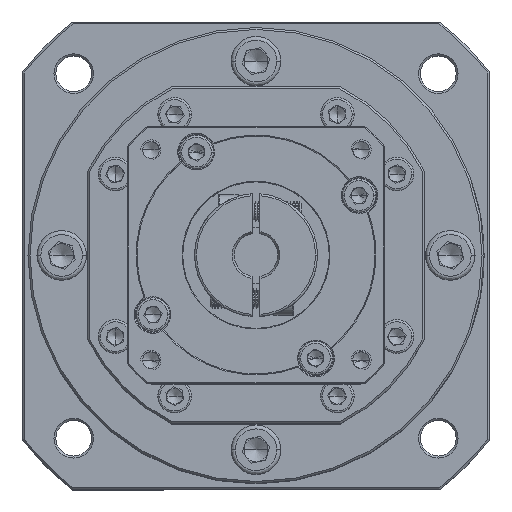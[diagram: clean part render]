
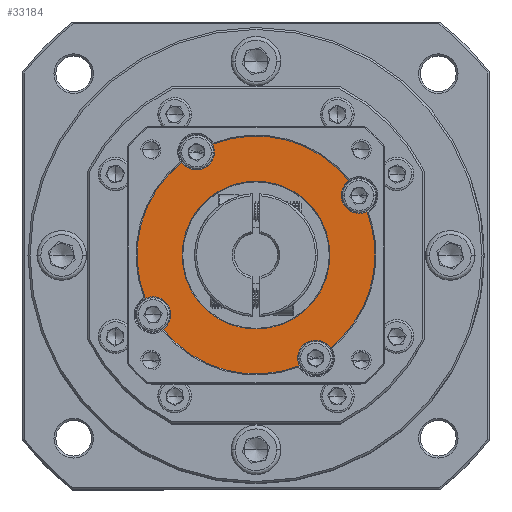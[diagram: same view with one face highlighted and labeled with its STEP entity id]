
A CAD part, top view. The second image highlights one B-rep face of the part: STEP entity #33184.
In plain terms, the highlighted planar face has unit normal (0, 0, 1).
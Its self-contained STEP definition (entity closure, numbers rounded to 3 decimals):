
#1172 = VERTEX_POINT ( 'NONE', #81468 ) ;
#2087 = ORIENTED_EDGE ( 'NONE', *, *, #72130, .F. ) ;
#3598 = CIRCLE ( 'NONE', #79431, 4.5 ) ;
#5773 = ORIENTED_EDGE ( 'NONE', *, *, #118830, .T. ) ;
#7400 = DIRECTION ( 'NONE',  ( 0., 0., 1. ) ) ;
#8260 = DIRECTION ( 'NONE',  ( 1., 0., 0. ) ) ;
#8325 = CARTESIAN_POINT ( 'NONE',  ( -59.469, 29.842, -1.259 ) ) ;
#9303 = ORIENTED_EDGE ( 'NONE', *, *, #83032, .T. ) ;
#9337 = ORIENTED_EDGE ( 'NONE', *, *, #85117, .F. ) ;
#9885 = CARTESIAN_POINT ( 'NONE',  ( -59.469, 29.842, -1.259 ) ) ;
#10411 = VERTEX_POINT ( 'NONE', #98422 ) ;
#10741 = CIRCLE ( 'NONE', #30857, 18.644 ) ;
#10841 = VERTEX_POINT ( 'NONE', #113673 ) ;
#11094 = ORIENTED_EDGE ( 'NONE', *, *, #118774, .T. ) ;
#11498 = AXIS2_PLACEMENT_3D ( 'NONE', #9885, #74324, #19161 ) ;
#12379 = CARTESIAN_POINT ( 'NONE',  ( -59.469, 29.842, -1.259 ) ) ;
#13375 = CARTESIAN_POINT ( 'NONE',  ( -69.969, 55.822, -1.259 ) ) ;
#13578 = CARTESIAN_POINT ( 'NONE',  ( -85.45, 14.842, -1.259 ) ) ;
#15859 = DIRECTION ( 'NONE',  ( 0., 0., -1. ) ) ;
#16010 = DIRECTION ( 'NONE',  ( 0., 0., -1. ) ) ;
#17592 = DIRECTION ( 'NONE',  ( 1., 0., 0. ) ) ;
#17933 = EDGE_CURVE ( 'NONE', #1172, #87557, #3598, .T. ) ;
#18870 = CARTESIAN_POINT ( 'NONE',  ( -33.488, 44.842, -1.259 ) ) ;
#19161 = DIRECTION ( 'NONE',  ( 1., 0., 0. ) ) ;
#19490 = CARTESIAN_POINT ( 'NONE',  ( -74.469, 55.822, -1.259 ) ) ;
#21247 = PLANE ( 'NONE',  #58656 ) ;
#21641 = DIRECTION ( 'NONE',  ( 1., 0., 0. ) ) ;
#22793 = CARTESIAN_POINT ( 'NONE',  ( -59.469, 29.842, -1.259 ) ) ;
#22818 = DIRECTION ( 'NONE',  ( 1., 0., 0. ) ) ;
#25646 = DIRECTION ( 'NONE',  ( 0., 0., 1. ) ) ;
#26406 = EDGE_CURVE ( 'NONE', #32602, #61419, #51579, .T. ) ;
#26939 = CIRCLE ( 'NONE', #94353, 4.5 ) ;
#27996 = CARTESIAN_POINT ( 'NONE',  ( -78.186, 53.286, -1.259 ) ) ;
#28080 = DIRECTION ( 'NONE',  ( 1., 0., 0. ) ) ;
#28417 = VERTEX_POINT ( 'NONE', #102638 ) ;
#28702 = DIRECTION ( 'NONE',  ( 1., 0., 0. ) ) ;
#29115 = CARTESIAN_POINT ( 'NONE',  ( -31.537, 40.787, -1.259 ) ) ;
#29221 = AXIS2_PLACEMENT_3D ( 'NONE', #71197, #16010, #80430 ) ;
#30700 = CARTESIAN_POINT ( 'NONE',  ( -87.401, 18.896, -1.259 ) ) ;
#30857 = AXIS2_PLACEMENT_3D ( 'NONE', #71061, #15859, #80290 ) ;
#31862 = ORIENTED_EDGE ( 'NONE', *, *, #57729, .F. ) ;
#32029 = DIRECTION ( 'NONE',  ( 1., 0., 0. ) ) ;
#32602 = VERTEX_POINT ( 'NONE', #38673 ) ;
#33184 = ADVANCED_FACE ( 'NONE', ( #94816, #116431 ), #21247, .T. ) ;
#33908 = CIRCLE ( 'NONE', #78853, 4.5 ) ;
#34471 = CIRCLE ( 'NONE', #90992, 30. ) ;
#34974 = CIRCLE ( 'NONE', #76063, 4.5 ) ;
#35077 = CARTESIAN_POINT ( 'NONE',  ( -74.469, 55.822, -1.259 ) ) ;
#35443 = CARTESIAN_POINT ( 'NONE',  ( -78.113, 29.842, -1.259 ) ) ;
#36735 = EDGE_CURVE ( 'NONE', #10841, #48654, #54122, .T. ) ;
#36974 = VERTEX_POINT ( 'NONE', #30700 ) ;
#37043 = CIRCLE ( 'NONE', #45266, 4.5 ) ;
#38219 = ORIENTED_EDGE ( 'NONE', *, *, #26406, .T. ) ;
#38673 = CARTESIAN_POINT ( 'NONE',  ( -82.914, 11.124, -1.259 ) ) ;
#39559 = DIRECTION ( 'NONE',  ( 0., 0., 1. ) ) ;
#43275 = CIRCLE ( 'NONE', #11498, 30. ) ;
#44075 = ORIENTED_EDGE ( 'NONE', *, *, #94236, .T. ) ;
#44209 = CARTESIAN_POINT ( 'NONE',  ( -85.45, 14.842, -1.259 ) ) ;
#44376 = DIRECTION ( 'NONE',  ( 1., 0., 0. ) ) ;
#45266 = AXIS2_PLACEMENT_3D ( 'NONE', #49157, #113597, #58405 ) ;
#46041 = CIRCLE ( 'NONE', #29221, 18.644 ) ;
#47882 = CARTESIAN_POINT ( 'NONE',  ( -48.524, 1.909, -1.259 ) ) ;
#48654 = VERTEX_POINT ( 'NONE', #72158 ) ;
#49157 = CARTESIAN_POINT ( 'NONE',  ( -44.469, 3.861, -1.259 ) ) ;
#50209 = CARTESIAN_POINT ( 'NONE',  ( -70.414, 57.774, -1.259 ) ) ;
#51579 = CIRCLE ( 'NONE', #65135, 30. ) ;
#53421 = EDGE_LOOP ( 'NONE', ( #2087, #38219, #99867, #65580, #72181, #9303, #72220, #9337, #5773, #80302, #31862, #44075, #67814 ) ) ;
#53425 = DIRECTION ( 'NONE',  ( 1., 0., 0. ) ) ;
#54122 = CIRCLE ( 'NONE', #85573, 30. ) ;
#55279 = AXIS2_PLACEMENT_3D ( 'NONE', #44209, #108578, #53425 ) ;
#57177 = VERTEX_POINT ( 'NONE', #27996 ) ;
#57729 = EDGE_CURVE ( 'NONE', #57177, #114691, #26939, .T. ) ;
#58330 = CIRCLE ( 'NONE', #69348, 30. ) ;
#58405 = DIRECTION ( 'NONE',  ( 1., 0., 0. ) ) ;
#58656 = AXIS2_PLACEMENT_3D ( 'NONE', #12379, #76808, #21641 ) ;
#61419 = VERTEX_POINT ( 'NONE', #47882 ) ;
#61623 = EDGE_CURVE ( 'NONE', #93233, #28417, #10741, .T. ) ;
#62519 = CARTESIAN_POINT ( 'NONE',  ( -33.488, 44.842, -1.259 ) ) ;
#63409 = DIRECTION ( 'NONE',  ( 0., 0., 1. ) ) ;
#65135 = AXIS2_PLACEMENT_3D ( 'NONE', #80872, #25646, #90123 ) ;
#65580 = ORIENTED_EDGE ( 'NONE', *, *, #115938, .F. ) ;
#67814 = ORIENTED_EDGE ( 'NONE', *, *, #93797, .F. ) ;
#69348 = AXIS2_PLACEMENT_3D ( 'NONE', #22793, #87252, #32029 ) ;
#71061 = CARTESIAN_POINT ( 'NONE',  ( -59.469, 29.842, -1.259 ) ) ;
#71197 = CARTESIAN_POINT ( 'NONE',  ( -59.469, 29.842, -1.259 ) ) ;
#71836 = DIRECTION ( 'NONE',  ( 1., 0., 0. ) ) ;
#72130 = EDGE_CURVE ( 'NONE', #32602, #98693, #34974, .T. ) ;
#72158 = CARTESIAN_POINT ( 'NONE',  ( -29.469, 29.842, -1.259 ) ) ;
#72181 = ORIENTED_EDGE ( 'NONE', *, *, #36735, .T. ) ;
#72220 = ORIENTED_EDGE ( 'NONE', *, *, #17933, .F. ) ;
#72772 = DIRECTION ( 'NONE',  ( 0., 0., 1. ) ) ;
#73692 = VERTEX_POINT ( 'NONE', #50209 ) ;
#74324 = DIRECTION ( 'NONE',  ( 0., 0., 1. ) ) ;
#76063 = AXIS2_PLACEMENT_3D ( 'NONE', #13578, #78023, #22818 ) ;
#76808 = DIRECTION ( 'NONE',  ( 0., 0., 1. ) ) ;
#78023 = DIRECTION ( 'NONE',  ( 0., 0., 1. ) ) ;
#78853 = AXIS2_PLACEMENT_3D ( 'NONE', #62519, #7400, #71836 ) ;
#79431 = AXIS2_PLACEMENT_3D ( 'NONE', #18870, #83299, #28080 ) ;
#80290 = DIRECTION ( 'NONE',  ( 1., 0., 0. ) ) ;
#80302 = ORIENTED_EDGE ( 'NONE', *, *, #92242, .F. ) ;
#80430 = DIRECTION ( 'NONE',  ( 1., 0., 0. ) ) ;
#80872 = CARTESIAN_POINT ( 'NONE',  ( -59.469, 29.842, -1.259 ) ) ;
#81468 = CARTESIAN_POINT ( 'NONE',  ( -37.988, 44.842, -1.259 ) ) ;
#83032 = EDGE_CURVE ( 'NONE', #48654, #87557, #43275, .T. ) ;
#83299 = DIRECTION ( 'NONE',  ( 0., 0., 1. ) ) ;
#83930 = DIRECTION ( 'NONE',  ( 0., 0., 1. ) ) ;
#85117 = EDGE_CURVE ( 'NONE', #10411, #1172, #33908, .T. ) ;
#85573 = AXIS2_PLACEMENT_3D ( 'NONE', #118555, #63409, #8260 ) ;
#87252 = DIRECTION ( 'NONE',  ( 0., 0., 1. ) ) ;
#87557 = VERTEX_POINT ( 'NONE', #29115 ) ;
#88438 = EDGE_CURVE ( 'NONE', #116173, #61419, #37043, .T. ) ;
#90123 = DIRECTION ( 'NONE',  ( 1., 0., 0. ) ) ;
#90716 = CIRCLE ( 'NONE', #97513, 4.5 ) ;
#90992 = AXIS2_PLACEMENT_3D ( 'NONE', #8325, #72772, #17592 ) ;
#92242 = EDGE_CURVE ( 'NONE', #114691, #73692, #115229, .T. ) ;
#93233 = VERTEX_POINT ( 'NONE', #35443 ) ;
#93797 = EDGE_CURVE ( 'NONE', #98693, #36974, #103113, .T. ) ;
#94236 = EDGE_CURVE ( 'NONE', #57177, #36974, #58330, .T. ) ;
#94353 = AXIS2_PLACEMENT_3D ( 'NONE', #19490, #83930, #28702 ) ;
#94716 = CARTESIAN_POINT ( 'NONE',  ( -44.469, 3.861, -1.259 ) ) ;
#94816 = FACE_BOUND ( 'NONE', #100876, .T. ) ;
#97513 = AXIS2_PLACEMENT_3D ( 'NONE', #94716, #39559, #103926 ) ;
#98422 = CARTESIAN_POINT ( 'NONE',  ( -36.024, 48.559, -1.259 ) ) ;
#98693 = VERTEX_POINT ( 'NONE', #118836 ) ;
#99475 = DIRECTION ( 'NONE',  ( 0., 0., 1. ) ) ;
#99867 = ORIENTED_EDGE ( 'NONE', *, *, #88438, .F. ) ;
#100206 = CARTESIAN_POINT ( 'NONE',  ( -48.969, 3.861, -1.259 ) ) ;
#100876 = EDGE_LOOP ( 'NONE', ( #11094, #113981 ) ) ;
#102638 = CARTESIAN_POINT ( 'NONE',  ( -40.825, 29.842, -1.259 ) ) ;
#103113 = CIRCLE ( 'NONE', #55279, 4.5 ) ;
#103926 = DIRECTION ( 'NONE',  ( 1., 0., 0. ) ) ;
#106806 = AXIS2_PLACEMENT_3D ( 'NONE', #35077, #99475, #44376 ) ;
#108578 = DIRECTION ( 'NONE',  ( 0., 0., 1. ) ) ;
#113597 = DIRECTION ( 'NONE',  ( 0., 0., 1. ) ) ;
#113673 = CARTESIAN_POINT ( 'NONE',  ( -40.752, 6.397, -1.259 ) ) ;
#113981 = ORIENTED_EDGE ( 'NONE', *, *, #61623, .T. ) ;
#114691 = VERTEX_POINT ( 'NONE', #13375 ) ;
#115229 = CIRCLE ( 'NONE', #106806, 4.5 ) ;
#115938 = EDGE_CURVE ( 'NONE', #10841, #116173, #90716, .T. ) ;
#116173 = VERTEX_POINT ( 'NONE', #100206 ) ;
#116431 = FACE_OUTER_BOUND ( 'NONE', #53421, .T. ) ;
#118555 = CARTESIAN_POINT ( 'NONE',  ( -59.469, 29.842, -1.259 ) ) ;
#118774 = EDGE_CURVE ( 'NONE', #28417, #93233, #46041, .T. ) ;
#118830 = EDGE_CURVE ( 'NONE', #10411, #73692, #34471, .T. ) ;
#118836 = CARTESIAN_POINT ( 'NONE',  ( -80.95, 14.842, -1.259 ) ) ;
